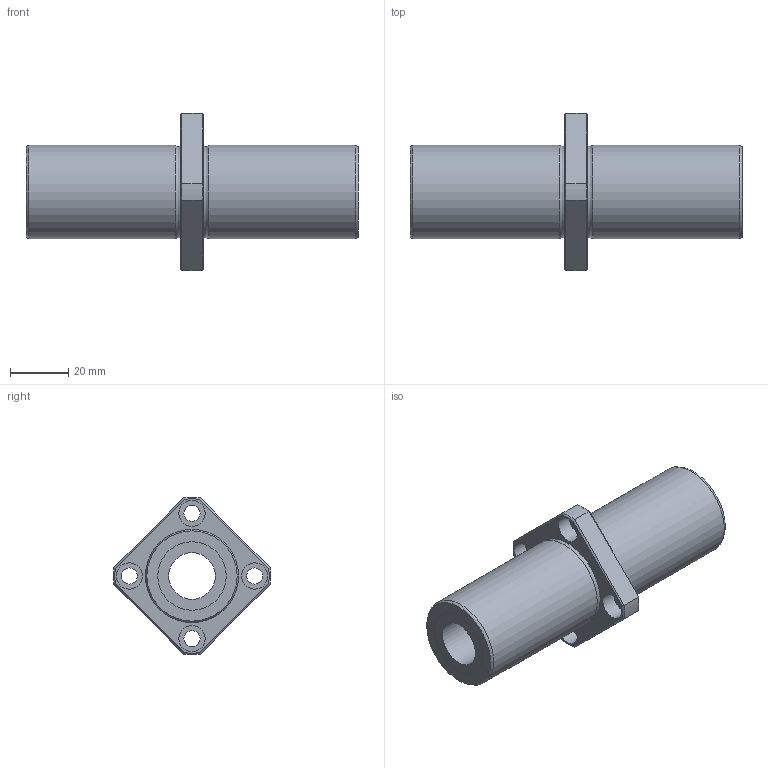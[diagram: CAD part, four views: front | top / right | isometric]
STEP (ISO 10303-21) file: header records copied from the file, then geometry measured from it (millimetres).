
FILE_DESCRIPTION((''),'2;1');
FILE_NAME('D:\製品 (図面)\カタログ用3D\メンテナンスフリー関連\STEP形式\LFLKC-MF\LFLKC16MF.stp','2010-06-01T16:00:55',('Tsuchiya'),(''),'Autodesk Inventor 10','Autodesk Inventor 10','');
FILE_SCHEMA(('AUTOMOTIVE_DESIGN { 1 0 10303 214 1 1 1 1 }'));
Length unit declared in the file: millimetre
Products named in the file (1): LFLKC16MF
Bounding box: 114 x 53.97 x 53.97 mm (x, y, z)
Volume: 74361.4 mm3; surface area: 21215 mm2
Topology: 1 solids, 1 shells, 51 faces, 103 edges, 62 vertices
Faces by surface type: plane 22, cylinder 17, cone 8, torus 2, bspline 2
Full cylindrical faces by diameter (mm): 5.5 x4, 9 x4, 16 x1, 23.5 x2, 32 x2
Entity records: 1413 total; most frequent: CARTESIAN_POINT 372, DIRECTION 216, ORIENTED_EDGE 172, AXIS2_PLACEMENT_3D 96, EDGE_CURVE 86, EDGE_LOOP 86, VERTEX_POINT 62, FACE_OUTER_BOUND 51
